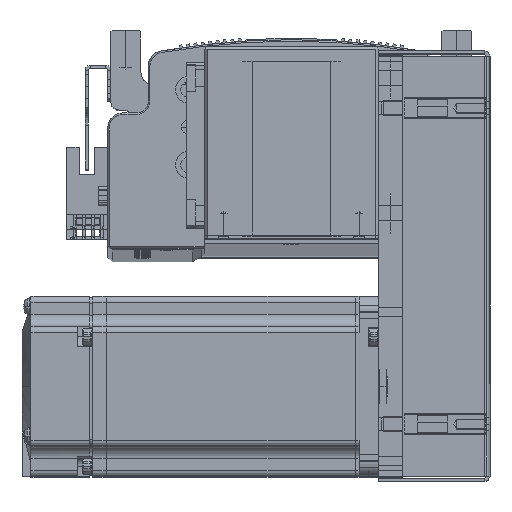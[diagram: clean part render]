
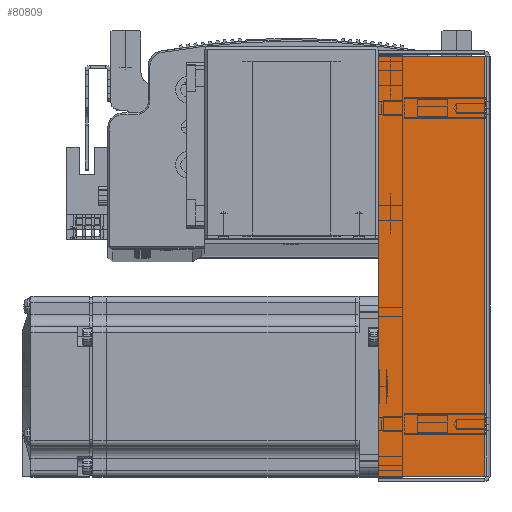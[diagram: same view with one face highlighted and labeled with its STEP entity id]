
A CAD part, top view. The second image highlights one B-rep face of the part: STEP entity #80809.
In plain terms, the highlighted planar face has unit normal (0, 0, 1).
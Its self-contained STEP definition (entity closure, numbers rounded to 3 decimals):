
#6656 = CARTESIAN_POINT ( 'NONE',  ( 0., 0., 33.5 ) ) ;
#6662 = DIRECTION ( 'NONE',  ( -1., 0., 0. ) ) ;
#6670 = PLANE ( 'NONE',  #56015 ) ;
#6704 = DIRECTION ( 'NONE',  ( 0., 0., -1. ) ) ;
#8066 = EDGE_CURVE ( 'NONE', #30498, #30638, #11758, .T. ) ;
#8092 = EDGE_CURVE ( 'NONE', #30520, #30658, #11761, .T. ) ;
#8128 = EDGE_CURVE ( 'NONE', #30498, #30520, #11739, .T. ) ;
#8167 = EDGE_CURVE ( 'NONE', #30638, #30658, #11798, .T. ) ;
#11723 = VECTOR ( 'NONE', #99741, 1000. ) ;
#11733 = VECTOR ( 'NONE', #99750, 1000. ) ;
#11739 = LINE ( 'NONE', #99832, #11746 ) ;
#11746 = VECTOR ( 'NONE', #99797, 1000. ) ;
#11758 = LINE ( 'NONE', #99735, #11723 ) ;
#11761 = LINE ( 'NONE', #99766, #11733 ) ;
#11798 = LINE ( 'NONE', #99888, #11823 ) ;
#11823 = VECTOR ( 'NONE', #99890, 1000. ) ;
#13150 = FACE_OUTER_BOUND ( 'NONE', #31683, .T. ) ;
#23643 = CARTESIAN_POINT ( 'NONE',  ( 69.793, 0.737, 33.5 ) ) ;
#23647 = CARTESIAN_POINT ( 'NONE',  ( -69.793, 0.737, 33.5 ) ) ;
#23657 = CARTESIAN_POINT ( 'NONE',  ( -69.793, 36., 33.5 ) ) ;
#23659 = CARTESIAN_POINT ( 'NONE',  ( 69.793, 36., 33.5 ) ) ;
#30498 = VERTEX_POINT ( 'NONE', #23643 ) ;
#30520 = VERTEX_POINT ( 'NONE', #23647 ) ;
#30638 = VERTEX_POINT ( 'NONE', #23659 ) ;
#30658 = VERTEX_POINT ( 'NONE', #23657 ) ;
#31683 = EDGE_LOOP ( 'NONE', ( #95435, #95520, #95407, #95428 ) ) ;
#56015 = AXIS2_PLACEMENT_3D ( 'NONE', #6656, #6704, #6662 ) ;
#80809 = ADVANCED_FACE ( 'NONE', ( #13150 ), #6670, .F. ) ;
#95407 = ORIENTED_EDGE ( 'NONE', *, *, #8167, .T. ) ;
#95428 = ORIENTED_EDGE ( 'NONE', *, *, #8092, .F. ) ;
#95435 = ORIENTED_EDGE ( 'NONE', *, *, #8128, .F. ) ;
#95520 = ORIENTED_EDGE ( 'NONE', *, *, #8066, .T. ) ;
#99735 = CARTESIAN_POINT ( 'NONE',  ( 69.793, 0., 33.5 ) ) ;
#99741 = DIRECTION ( 'NONE',  ( 0., 1., 0. ) ) ;
#99750 = DIRECTION ( 'NONE',  ( 0., 1., 0. ) ) ;
#99766 = CARTESIAN_POINT ( 'NONE',  ( -69.793, 0., 33.5 ) ) ;
#99797 = DIRECTION ( 'NONE',  ( -1., 0., 0. ) ) ;
#99832 = CARTESIAN_POINT ( 'NONE',  ( -71.5, 0.737, 33.5 ) ) ;
#99888 = CARTESIAN_POINT ( 'NONE',  ( 0., 36., 33.5 ) ) ;
#99890 = DIRECTION ( 'NONE',  ( -1., 0., 0. ) ) ;
